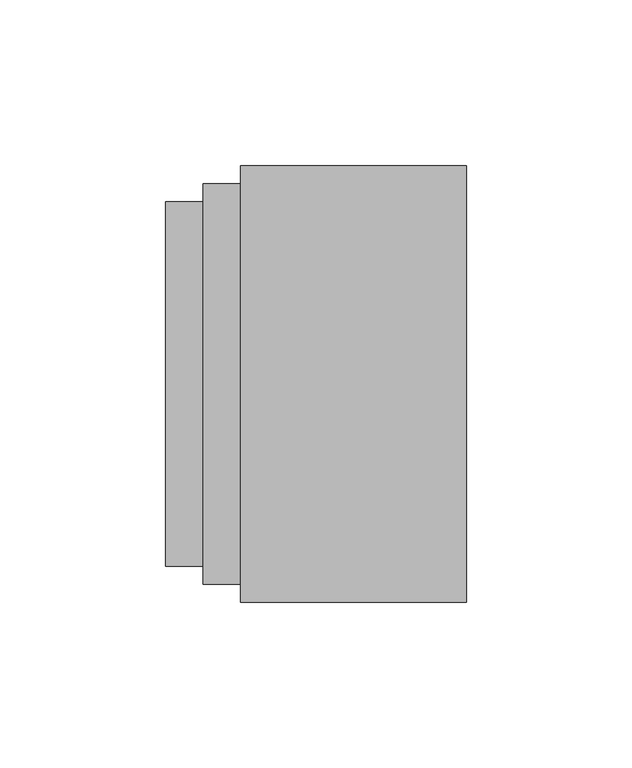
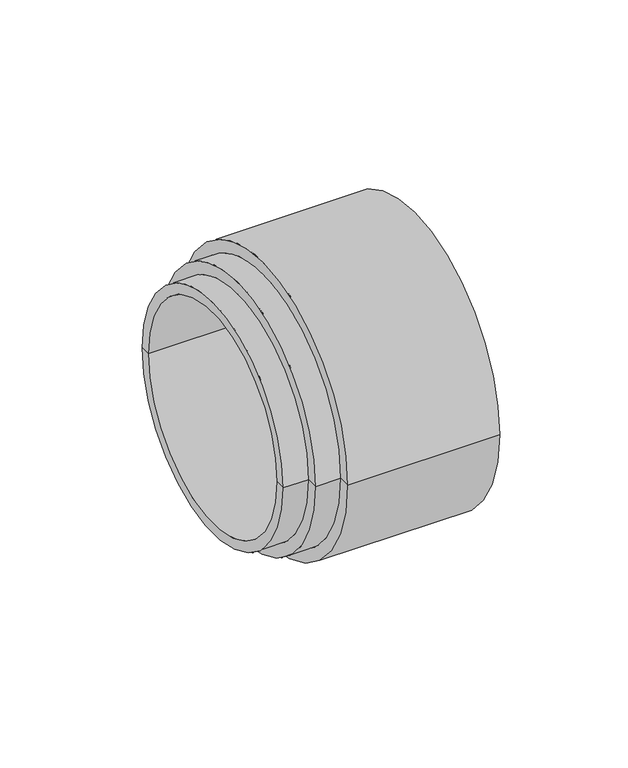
"""IFC4 building model written with IfcOpenShell, lengths in millimetres: pipe fitting geometry, OSMA_KG2000_PPKGUSM : Přechodka KG2000-Kamenina."""

from ifc_helpers import new_model, si_unit, frame, origin, place, context, project, spatial, polyline, circle_curve, source, transform, mapped, element, save
from ifc_brep_helpers import plane_surface, cylinder_surface, revolved_surface, advanced_brep


def pipe_fitting_3d71c497(model_context):
    return source(origin(), model_context, "Body", "AdvancedBrep", [
        advanced_brep(
        [(-22.75, -66.0, 0.0), (-22.75, 66.0, 0.0), (45.5, 66.0, 0.0), (45.5, -66.0, 0.0), (-22.75, -60.5, 0.0), (-22.75, 60.5, 0.0), (-34.125, -60.5, 0.0), (-34.125, 60.5, 0.0), (-34.125, -55.0, 0.0), (-34.125, 55.0, 0.0), (-45.5, -55.0, 0.0), (-45.5, 55.0, 0.0), (-45.5, -50.3031612, 0.0), (-45.5, 50.3031612, 0.0), (45.5, -50.3031612, 0.0), (45.5, 50.3031612, 0.0)],
        [
            (0, 1, circle_curve(frame((-22.75, 0.0, 0.0), z_axis=(1.0, 0.0, 0.0), x_axis=(0.0, 1.0, 0.0)), 66.0)),
            (1, 2),
            (2, 3, circle_curve(frame((45.5, 0.0, 0.0), z_axis=(-1.0, 0.0, 0.0), x_axis=(0.0, 1.0, 0.0)), 66.0)),
            (3, 0),
            (1, 0, circle_curve(frame((-22.75, 0.0, 0.0), z_axis=(1.0, 0.0, 0.0), x_axis=(0.0, 1.0, 0.0)), 66.0)),
            (3, 2, circle_curve(frame((45.5, 0.0, 0.0), z_axis=(-1.0, 0.0, 0.0), x_axis=(0.0, 1.0, 0.0)), 66.0)),
            (4, 5, circle_curve(frame((-22.75, 0.0, 0.0), z_axis=(1.0, 0.0, 0.0), x_axis=(0.0, 1.0, 0.0)), 60.5)),
            (5, 1),
            (0, 4),
            (5, 4, circle_curve(frame((-22.75, 0.0, 0.0), z_axis=(1.0, 0.0, 0.0), x_axis=(0.0, 1.0, 0.0)), 60.5)),
            (6, 7, circle_curve(frame((-34.125, 0.0, 0.0), z_axis=(1.0, 0.0, 0.0), x_axis=(0.0, 1.0, 0.0)), 60.5)),
            (7, 5),
            (4, 6),
            (7, 6, circle_curve(frame((-34.125, 0.0, 0.0), z_axis=(1.0, 0.0, 0.0), x_axis=(0.0, 1.0, 0.0)), 60.5)),
            (8, 9, circle_curve(frame((-34.125, 0.0, 0.0), z_axis=(1.0, 0.0, 0.0), x_axis=(0.0, 1.0, 0.0)), 55.0)),
            (9, 7),
            (6, 8),
            (9, 8, circle_curve(frame((-34.125, 0.0, 0.0), z_axis=(1.0, 0.0, 0.0), x_axis=(0.0, 1.0, 0.0)), 55.0)),
            (10, 11, circle_curve(frame((-45.5, 0.0, 0.0), z_axis=(1.0, 0.0, 0.0), x_axis=(0.0, 1.0, 0.0)), 55.0)),
            (11, 9),
            (8, 10),
            (11, 10, circle_curve(frame((-45.5, 0.0, 0.0), z_axis=(1.0, 0.0, 0.0), x_axis=(0.0, 1.0, 0.0)), 55.0)),
            (12, 13, circle_curve(frame((-45.5, 0.0, 0.0), z_axis=(1.0, 0.0, 0.0), x_axis=(0.0, 1.0, 0.0)), 50.3031612)),
            (13, 11),
            (10, 12),
            (13, 12, circle_curve(frame((-45.5, 0.0, 0.0), z_axis=(1.0, 0.0, 0.0), x_axis=(0.0, 1.0, 0.0)), 50.3031612)),
            (14, 15, circle_curve(frame((45.5, 0.0, 0.0), z_axis=(1.0, 0.0, 0.0), x_axis=(0.0, 1.0, 0.0)), 50.3031612)),
            (15, 13),
            (12, 14),
            (15, 14, circle_curve(frame((45.5, 0.0, 0.0), z_axis=(1.0, 0.0, 0.0), x_axis=(0.0, 1.0, 0.0)), 50.3031612)),
            (2, 15),
            (14, 3),
        ],
        [
            cylinder_surface(frame((2000.0, 0.0, 0.0), z_axis=(-1.0, 0.0, 0.0), x_axis=(0.0, 1.0, 0.0)), 66.0),
            plane_surface(frame((-22.75, 0.0, 0.0), z_axis=(-1.0, 0.0, 0.0), x_axis=(0.0, 1.0, 0.0))),
            cylinder_surface(frame((2000.0, 0.0, 0.0), z_axis=(-1.0, 0.0, 0.0), x_axis=(0.0, 1.0, 0.0)), 60.5),
            plane_surface(frame((-34.125, 0.0, 0.0), z_axis=(-1.0, 0.0, 0.0), x_axis=(0.0, 1.0, 0.0))),
            cylinder_surface(frame((2000.0, 0.0, 0.0), z_axis=(-1.0, 0.0, 0.0), x_axis=(0.0, 1.0, 0.0)), 55.0),
            plane_surface(frame((-45.5, 0.0, 0.0), z_axis=(-1.0, 0.0, 0.0), x_axis=(0.0, 1.0, 0.0))),
            revolved_surface(polyline([(-45.5, 50.3031612, 0.0), (45.5, 50.3031612, 0.0)]), (2000.0, 0.0, 0.0), (-1.0, 0.0, 0.0)),
            plane_surface(frame((45.5, 0.0, 0.0), z_axis=(1.0, 0.0, 0.0), x_axis=(0.0, 1.0, 0.0))),
        ],
        [
            (0, [[1, 2, 3, 4]]),
            (0, [[5, -4, 6, -2]]),
            (1, [[7, 8, -1, 9]]),
            (1, [[10, -9, -5, -8]]),
            (2, [[11, 12, -7, 13]]),
            (2, [[14, -13, -10, -12]]),
            (3, [[15, 16, -11, 17]]),
            (3, [[18, -17, -14, -16]]),
            (4, [[19, 20, -15, 21]]),
            (4, [[22, -21, -18, -20]]),
            (5, [[23, 24, -19, 25]]),
            (5, [[26, -25, -22, -24]]),
            (6, [[27, 28, -23, 29]]),
            (6, [[30, -29, -26, -28]]),
            (7, [[-3, 31, -27, 32]]),
            (7, [[-6, -32, -30, -31]]),
        ],
    ),
    ])


if __name__ == "__main__":
    model = new_model("IFC4")
    model_context = context("Model", 3, world=origin())
    ifc_project = project(units=[si_unit("LENGTHUNIT", "METRE", prefix="MILLI")], contexts=[model_context])
    site = spatial("IfcSite", under=ifc_project)
    building = spatial("IfcBuilding", under=site)
    placement = place(None, origin())
    pipe_fitting_shape = pipe_fitting_3d71c497(model_context)
    element("IfcPipeFitting", 1, ObjectType="OSMA_KG2000_PPKGUSM : Přechodka KG2000-Kamenina", at=placement, inside=building, context=model_context, shape_type="MappedRepresentation", body=[
        mapped(pipe_fitting_shape, transform((0.0, 0.0, 0.0), x_axis=(1.0, 0.0, 0.0), y_axis=(0.0, 1.0, 0.0), z_axis=(0.0, 0.0, 1.0))),
    ])
    save(model, "model.ifc")
